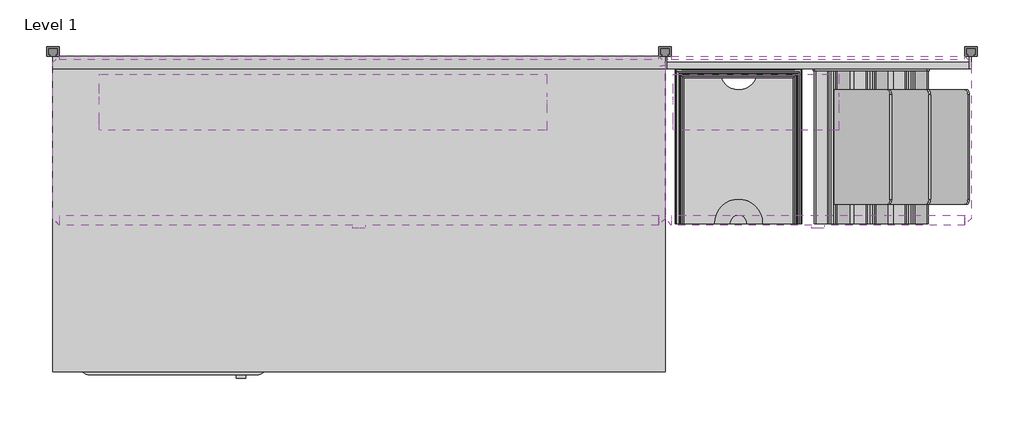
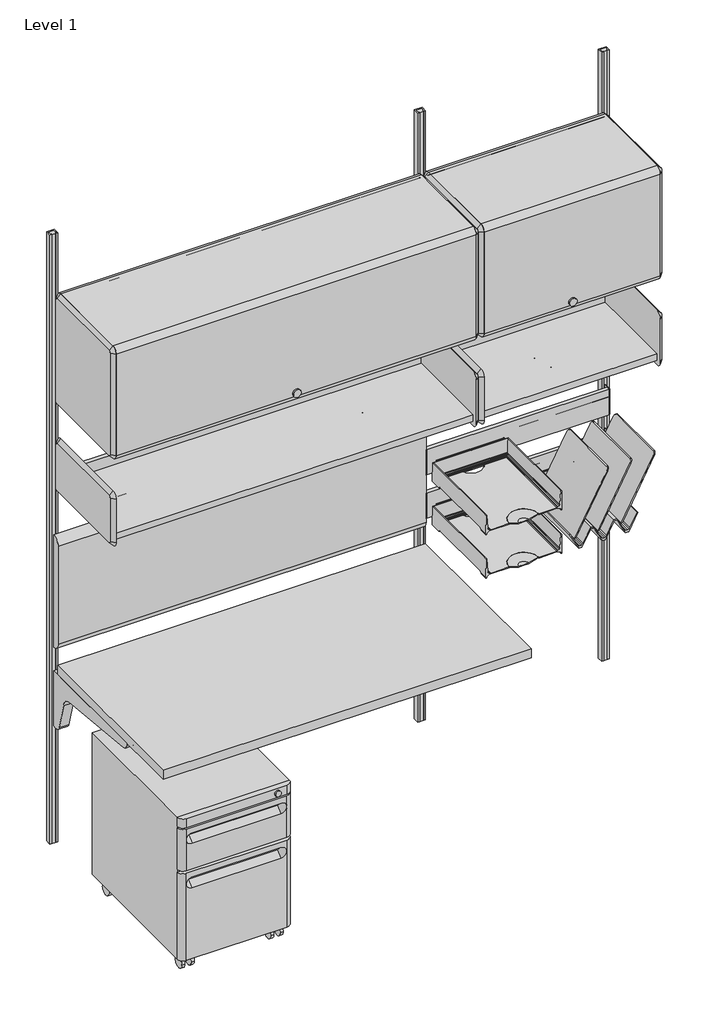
# One storey, incomplete: 15 furniture elements, 2 light fixtures.
"""IFC4 building model written with IfcOpenShell, lengths in millimetres."""

from ifc_helpers import new_model, si_unit, origin, place, context, project, spatial, transform, mapped, element, save
from components import furniture_84c54a78, furniture_75fc3fe0, furniture_a2665887, furniture_baef4f76, furniture_6a59721d, furniture_2520e590, furniture_ae017f2a, furniture_fea97cc0, furniture_083a197f, furniture_33cd207f, furniture_d9179111, furniture_cb78dd66, furniture_ea425779, light_fixture_d29e1486, light_fixture_6c250f8a

model = new_model("IFC4")

# Units and contexts
model_context = context("Model", 3, world=origin())
ifc_project = project(units=[si_unit("LENGTHUNIT", "METRE", prefix="MILLI")], contexts=[model_context])

# Site, building, storey
site = spatial("IfcSite", under=ifc_project)
building = spatial("IfcBuilding", under=site)
storey = spatial("IfcBuildingStorey", under=building, Name="Level 1", Elevation=0.0)

# Furniture
placement = place(None, origin())
furniture_shape = furniture_84c54a78(model_context)
element("IfcFurniture", 1, ObjectType="HermanMiller_QuadrantFiling_G5111_MobilePedestal : 21-1/2\"H x 20\"D x 15\"W BF", at=placement, inside=storey, context=model_context, shape_type="MappedRepresentation", body=[
    mapped(furniture_shape, transform((239.44326, -390.382763, 0.0), x_axis=(1.0, 0.0, 0.0), y_axis=(0.0, 1.0, 0.0), z_axis=(0.0, 0.0, 1.0))),
])
furniture_2_shape = furniture_75fc3fe0(model_context)
element("IfcFurniture", 2, ObjectType="HermanMiller_ThrivePortfolio_Y7218_DiagonalTray : 8 1/2\"H x 12\"D x 13\"W", at=placement, inside=storey, context=model_context, shape_type="MappedRepresentation", body=[
    mapped(furniture_2_shape, transform((1630.016817, -198.47052, 0.0), x_axis=(1.0, 0.0, 0.0), y_axis=(0.0, 1.0, 0.0), z_axis=(0.0, 0.0, 1.0))),
])
furniture_3_shape = furniture_a2665887(model_context)
element("IfcFurniture", 3, ObjectType="HermanMiller_ThrivePortfolio_Y7216_PaperTray : 3\"H x 12\"D x 10\"W", at=placement, inside=storey, context=model_context, shape_type="MappedRepresentation", body=[
    mapped(furniture_3_shape, transform((1365.4024, -198.47052, 0.0), x_axis=(1.0, 0.0, 0.0), y_axis=(0.0, 1.0, 0.0), z_axis=(0.0, 0.0, 1.0))),
])
furniture_4_shape = furniture_baef4f76(model_context)
element("IfcFurniture", 4, ObjectType="HermanMiller_ThrivePortfolio_Y7216_PaperTray : 3\"H x 12\"D x 10\"W", at=placement, inside=storey, context=model_context, shape_type="MappedRepresentation", body=[
    mapped(furniture_4_shape, transform((1365.4024, -198.47052, 0.0), x_axis=(1.0, 0.0, 0.0), y_axis=(0.0, 1.0, 0.0), z_axis=(0.0, 0.0, 1.0))),
])
furniture_5_shape = furniture_6a59721d(model_context)
element("IfcFurniture", 5, ObjectType="HermanMiller_ActionOffice_A3610_ToolBar : 4\"H x 24\"W", at=placement, inside=storey, context=model_context, shape_type="MappedRepresentation", body=[
    mapped(furniture_5_shape, transform((1524.0, -31.7499996, 0.0), x_axis=(1.0, 0.0, 0.0), y_axis=(0.0, 1.0, 0.0), z_axis=(0.0, 0.0, 1.0))),
])
furniture_6_shape = furniture_2520e590(model_context)
element("IfcFurniture", 6, ObjectType="HermanMiller_ActionOffice_A3610_ToolBar : 4\"H x 24\"W", at=placement, inside=storey, context=model_context, shape_type="MappedRepresentation", body=[
    mapped(furniture_6_shape, transform((1524.0, -31.7499996, 0.0), x_axis=(1.0, 0.0, 0.0), y_axis=(0.0, 1.0, 0.0), z_axis=(0.0, 0.0, 1.0))),
])
furniture_7_shape = furniture_ae017f2a(model_context)
element("IfcFurniture", 7, ObjectType="HermanMiller_ActionOffice_A3220_B-StyleStorageDisplay : Shelf 13\"D x 24\"W", at=placement, inside=storey, context=model_context, shape_type="MappedRepresentation", body=[
    mapped(furniture_7_shape, transform((1647.9420045, -200.025, 0.0), x_axis=(1.0, 0.0, 0.0), y_axis=(0.0, 1.0, 0.0), z_axis=(0.0, 0.0, 1.0))),
])
furniture_8_shape = furniture_fea97cc0(model_context)
element("IfcFurniture", 8, ObjectType="HermanMiller_ActionOffice_A3352_B-StyleFlipperDoorUnit : 15 1/2\"H x 13\"D x 24\"W", at=placement, inside=storey, context=model_context, shape_type="MappedRepresentation", body=[
    mapped(furniture_8_shape, transform((1524.0, -200.025, 0.0), x_axis=(1.0, 0.0, 0.0), y_axis=(0.0, 1.0, 0.0), z_axis=(0.0, 0.0, 1.0))),
])
furniture_9_shape = furniture_083a197f(model_context)
element("IfcFurniture", 9, ObjectType="HermanMiller_ActionOffice_A2310_Sq-EdgeRectangularWorkSurface : 24\"D x 48\"W", at=placement, inside=storey, context=model_context, shape_type="MappedRepresentation", body=[
    mapped(furniture_9_shape, transform((609.6, -333.375, 0.0), x_axis=(1.0, 0.0, 0.0), y_axis=(0.0, 1.0, 0.0), z_axis=(0.0, 0.0, 1.0))),
])
furniture_10_shape = furniture_33cd207f(model_context)
element("IfcFurniture", 10, ObjectType="HermanMiller_ActionOffice_A3352_B-StyleFlipperDoorUnit : 15 1/2\"H x 13\"D x 48\"W", at=placement, inside=storey, context=model_context, shape_type="MappedRepresentation", body=[
    mapped(furniture_10_shape, transform((609.6, -200.025, 0.0), x_axis=(1.0, 0.0, 0.0), y_axis=(0.0, 1.0, 0.0), z_axis=(0.0, 0.0, 1.0))),
])
furniture_11_shape = furniture_d9179111(model_context)
element("IfcFurniture", 11, ObjectType="HermanMiller_ActionOffice_A3220_B-StyleStorageDisplay : Shelf 13\"D x 48\"W", at=placement, inside=storey, context=model_context, shape_type="MappedRepresentation", body=[
    mapped(furniture_11_shape, transform((733.5420045, -200.025, 0.0), x_axis=(1.0, 0.0, 0.0), y_axis=(0.0, 1.0, 0.0), z_axis=(0.0, 0.0, 1.0))),
])
furniture_12_shape = furniture_cb78dd66(model_context)
element("IfcFurniture", 12, ObjectType="HermanMiller_ActionOffice_A3410_B-StyleTackboard : 16\"H x 48\"W", at=placement, inside=storey, context=model_context, shape_type="MappedRepresentation", body=[
    mapped(furniture_12_shape, transform((609.6, -31.75, 0.0), x_axis=(1.0, 0.0, 0.0), y_axis=(0.0, 1.0, 0.0), z_axis=(0.0, 0.0, 1.0))),
])
furniture_13_shape = furniture_ea425779(model_context)
element("IfcFurniture", 13, ObjectType="HermanMiller_ActionOffice_AO213_WallStrip : 84\"H", at=placement, inside=storey, context=model_context, shape_type="MappedRepresentation", body=[
    mapped(furniture_13_shape, transform((1219.2, 0.0, 0.0), x_axis=(1.0, 0.0, 0.0), y_axis=(0.0, 1.0, 0.0), z_axis=(0.0, 0.0, 1.0))),
])
element("IfcFurniture", 14, ObjectType="HermanMiller_ActionOffice_AO213_WallStrip : 84\"H", at=placement, inside=storey, context=model_context, shape_type="MappedRepresentation", body=[
    mapped(furniture_13_shape, transform((0.0, 0.0, 0.0), x_axis=(1.0, 0.0, 0.0), y_axis=(0.0, 1.0, 0.0), z_axis=(0.0, 0.0, 1.0))),
])
element("IfcFurniture", 15, ObjectType="HermanMiller_ActionOffice_AO213_WallStrip : 84\"H", at=placement, inside=storey, context=model_context, shape_type="MappedRepresentation", body=[
    mapped(furniture_13_shape, transform((1828.8, 0.0, 0.0), x_axis=(1.0, 0.0, 0.0), y_axis=(0.0, 1.0, 0.0), z_axis=(0.0, 0.0, 1.0))),
])

# Light fixtures
light_fixture_shape = light_fixture_d29e1486(model_context)
element("IfcLightFixture", 16, ObjectType="HermanMiller_SupplementalProducts_G6136_UtilityTaskLight : AO Etho Canvas 42W", at=placement, inside=storey, context=model_context, shape_type="MappedRepresentation", body=[
    mapped(light_fixture_shape, transform((537.718, -111.125, 0.0), x_axis=(1.0, 0.0, 0.0), y_axis=(0.0, 1.0, 0.0), z_axis=(0.0, 0.0, 1.0))),
])
light_fixture_2_shape = light_fixture_6c250f8a(model_context)
element("IfcLightFixture", 17, ObjectType="HermanMiller_SupplementalProducts_G6136_UtilityTaskLight : AO Etho Canvas 24W", at=placement, inside=storey, context=model_context, shape_type="MappedRepresentation", body=[
    mapped(light_fixture_2_shape, transform((1400.429, -111.125, 0.0), x_axis=(1.0, 0.0, 0.0), y_axis=(0.0, 1.0, 0.0), z_axis=(0.0, 0.0, 1.0))),
])

save(model, "model.ifc")
